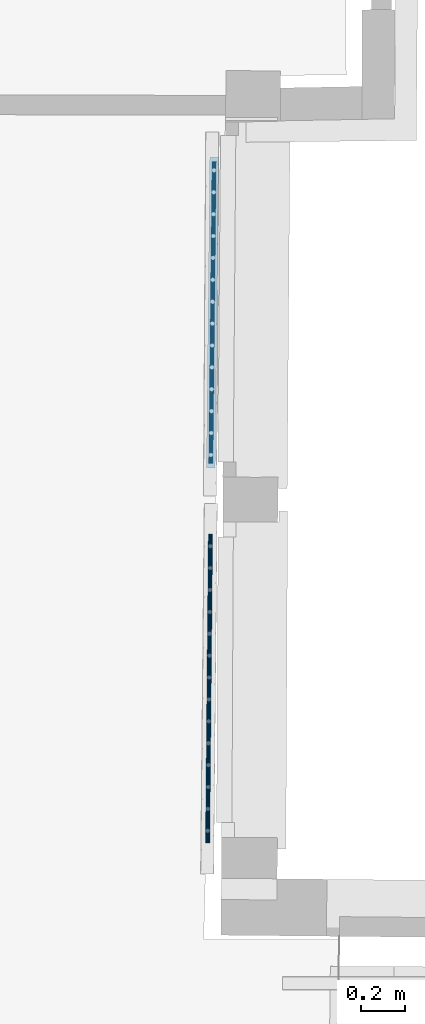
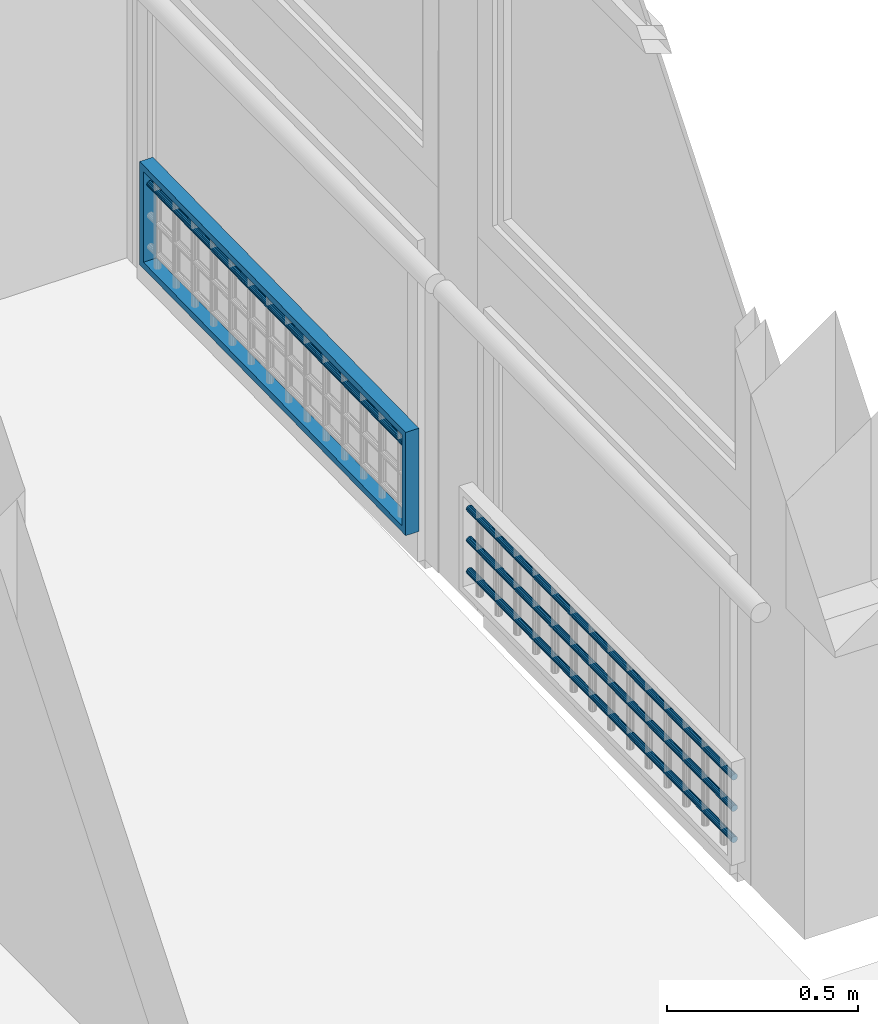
# One storey, part 27 of 97: 5 members, 2 elements without a shape of their own.
"""IFC2X3 building model written with IfcOpenShell, lengths in centimetres."""

from ifc_helpers import new_model, entity, si_unit, converted_unit, direction, frame, origin, origin_with_axes, place, context, subcontext, project, spatial, faceted_brep, material, type_object, element, aggregate, save


model = new_model("IFC2X3")

# Units and contexts
model_context = context("Model", 3, precision=0.0001, world=origin(), true_north=direction((0.225632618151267, 0.974212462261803, 0.0)))
body_context = subcontext(model_context, "Body", "Model", "MODEL_VIEW")
ifc_project = project(units=[si_unit("LENGTHUNIT", "METRE", prefix="CENTI"), si_unit("AREAUNIT", "SQUARE_METRE", prefix="CENTI"), si_unit("VOLUMEUNIT", "CUBIC_METRE", prefix="CENTI"), converted_unit("PLANEANGLEUNIT", "DEGREE", entity("IfcRatioMeasure", 0.0174532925), si_unit("PLANEANGLEUNIT", "RADIAN"), dimensions=[0, 0, 0, 0, 0, 0, 0])], contexts=[model_context])

# Site, building, storey
site_placement = place(None, origin_with_axes())
site = spatial("IfcSite", under=ifc_project, at=site_placement, Name="Default Site", CompositionType="ELEMENT")
building_placement = place(site_placement, origin_with_axes())
building = spatial("IfcBuilding", under=site, at=building_placement, Name="Default Building", CompositionType="ELEMENT")
storey_placement = place(building_placement, origin_with_axes())
storey = spatial("IfcBuildingStorey", under=building, at=storey_placement, Name="Rez-de-chaussée", CompositionType="ELEMENT", Elevation=0.0)

# Assembly, members
building_element_proxy_type = type_object("IfcBuildingElementProxyType", Name="Type Object", PredefinedType="NOTDEFINED")
assembly_1_placement = place(storey_placement, frame((1065.74726462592, -36.1039081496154, 11.9999999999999), z_axis=(0.0, 0.0, 1.0), x_axis=(-0.00922380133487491, -0.999957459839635, 0.0)))
assembly_1 = element("IfcElementAssembly", 1, at=assembly_1_placement, inside=storey, type_object=building_element_proxy_type, Name="Panneau 1702030", ObjectType="Precast panel", PredefinedType="USERDEFINED")
ifc_material = material(Name="Aluminium satiné")
member_1_placement = place(assembly_1_placement, frame((142.999994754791, 0.342020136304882, 25.5603075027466), z_axis=(1.0, -3.73485964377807e-15, -2.15799600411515e-15), x_axis=(-4.31252256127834e-15, -0.866024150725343, -0.500002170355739)))
member_1 = element("IfcMember", 2, at=member_1_placement, material=ifc_material, Name="4294967114", context=body_context, shape_type="Brep", body=[
    faceted_brep([(1.94289029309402e-14, 1.22124532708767e-13, 0.0), (-0.347296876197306, 1.77635683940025e-13, -1.49832807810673e-15), (-0.673647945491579, -0.118779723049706, -2.90649660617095e-15), (-0.939693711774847, -0.342018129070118, -4.05467374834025e-15), (-1.11334216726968, -0.64278433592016, -4.80435960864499e-15), (-1.17365112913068, -0.984805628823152, -5.06514129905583e-15), (-1.11334356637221, -1.32682410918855, -4.80555226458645e-15), (-0.939696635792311, -1.62759289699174, -4.05691648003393e-15), (-0.673653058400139, -1.85083187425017, -2.90952329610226e-15), (-0.34730123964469, -1.96961451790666, -1.50176363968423e-15), (-4.36344736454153e-06, -1.96961451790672, -3.43556157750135e-18), (0.326346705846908, -1.85083479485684, 1.40473296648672e-15), (0.592392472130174, -1.62759638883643, 2.55291010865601e-15), (0.766040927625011, -1.32683018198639, 3.30259596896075e-15), (0.826349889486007, -0.984808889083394, 3.5633776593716e-15), (0.76604232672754, -0.642790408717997, 3.30378862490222e-15), (0.592395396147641, -0.342021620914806, 2.5551528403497e-15), (0.326351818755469, -0.118782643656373, 1.40775965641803e-15), (0.326351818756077, -0.118782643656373, -140.999994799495), (0.592395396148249, -0.342021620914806, -140.999994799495), (0.766042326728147, -0.642790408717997, -140.999994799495), (0.826349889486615, -0.984808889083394, -140.999994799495), (0.766040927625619, -1.32683018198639, -140.999994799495), (0.592392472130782, -1.62759638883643, -140.999994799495), (0.326346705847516, -1.85083479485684, -140.999994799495), (-4.36344675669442e-06, -1.96961451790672, -140.999994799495), (-0.347301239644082, -1.96961451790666, -140.999994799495), (-0.673653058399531, -1.85083187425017, -140.999994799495), (-0.939696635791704, -1.62759289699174, -140.999994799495), (-1.1133435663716, -1.32682410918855, -140.999994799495), (-1.17365112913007, -0.984805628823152, -140.999994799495), (-1.11334216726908, -0.64278433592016, -140.999994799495), (-0.939693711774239, -0.342018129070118, -140.999994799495), (-0.673647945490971, -0.118779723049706, -140.999994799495), (-0.347296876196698, 1.77635683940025e-13, -140.999994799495), (6.27276008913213e-13, 1.22124532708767e-13, -140.999994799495), (0.326351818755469, -0.118782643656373, 0.0), (0.592395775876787, -0.34202116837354, 1.63928823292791e-21), (0.592395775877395, -0.34202116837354, -140.999994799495), (0.592395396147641, -0.342021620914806, 0.0), (0.766043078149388, -0.642789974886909, -2.22044572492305e-14), (0.766043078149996, -0.642789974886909, -140.999994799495), (0.76604232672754, -0.642790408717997, -2.22044604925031e-14), (0.826348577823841, -0.984809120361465, -2.22044661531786e-14), (0.826348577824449, -0.984809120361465, -140.999994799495), (0.766042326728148, -0.642790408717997, -140.999994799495), (0.826349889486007, -0.984808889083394, -2.22044604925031e-14), (0.766041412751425, -1.32683026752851, -2.22044583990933e-14), (0.766041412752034, -1.32683026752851, -140.999994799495), (0.766040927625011, -1.32683018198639, -2.22044604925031e-14), (0.592392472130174, -1.62759638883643, -2.22044604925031e-14), (0.326346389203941, -1.85083441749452, -2.22044618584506e-14), (0.326346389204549, -1.85083441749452, -140.999994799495), (0.326346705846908, -1.85083479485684, -2.22044604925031e-14), (-3.90791524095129e-06, -1.9696157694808, -2.22044585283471e-14), (-3.90791463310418e-06, -1.9696157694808, -140.999994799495), (-4.36344736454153e-06, -1.96961451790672, -2.22044604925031e-14), (-0.347301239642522, -1.96961365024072, -2.22044604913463e-14), (-0.347301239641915, -1.96961365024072, -140.999994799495), (-0.34730123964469, -1.96961451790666, -2.22044604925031e-14), (-0.673652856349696, -1.85083131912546, -2.2204459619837e-14), (-0.673652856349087, -1.85083131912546, -140.999994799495), (-0.673653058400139, -1.85083187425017, -2.22044604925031e-14), (-0.939697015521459, -1.627593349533, -2.22044621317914e-14), (-0.93969701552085, -1.627593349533, -140.999994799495), (-0.673653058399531, -1.85083187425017, -140.999994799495), (-0.939696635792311, -1.62759289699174, -2.22044604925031e-14), (-1.11334431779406, -1.32682454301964, -2.22044637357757e-14), (-1.11334431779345, -1.32682454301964, -140.999994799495), (-0.939696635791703, -1.62759289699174, -140.999994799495), (-1.11334356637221, -1.32682410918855, -2.22044604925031e-14), (-1.17364981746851, -0.984805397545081, -2.22044548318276e-14), (-1.1736498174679, -0.984805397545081, -140.999994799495), (-1.17365112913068, -0.984805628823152, -2.22044604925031e-14), (-1.11334265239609, -0.642784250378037, -2.22044625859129e-14), (-1.11334265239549, -0.642784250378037, -140.999994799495), (-1.11334216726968, -0.64278433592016, -2.22044604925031e-14), (-0.939693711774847, -0.342018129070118, -2.22044604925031e-14), (-0.673647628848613, -0.118780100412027, -2.22044591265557e-14), (-0.673647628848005, -0.118780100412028, -140.999994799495), (-0.673647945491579, -0.118779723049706, -2.22044604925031e-14), (-0.34729733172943, 1.25157425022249e-06, -2.22044624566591e-14), (-0.347297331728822, 1.25157425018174e-06, -140.999994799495), (-0.347296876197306, 1.77635683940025e-13, -2.22044604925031e-14), (-2.14829646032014e-12, -8.67665826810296e-07, -1.15685984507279e-24), (-1.54044935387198e-12, -8.6766582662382e-07, -140.999994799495), (-0.347296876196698, 1.7782216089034e-13, -140.999994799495), (0.326351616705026, -0.118783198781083, -8.72666147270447e-22), (0.326351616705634, -0.118783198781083, -140.999994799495), (6.27409254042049e-13, 1.22490617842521e-13, -140.999994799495)], [[[0, 1, 2, 3, 4, 5, 6, 7, 8, 9, 10, 11, 12, 13, 14, 15, 16, 17]], [[18, 19, 20, 21, 22, 23, 24, 25, 26, 27, 28, 29, 30, 31, 32, 33, 34, 35]], [[36, 37, 38, 18]], [[39, 40, 41, 19]], [[42, 43, 44, 45]], [[46, 47, 48, 21]], [[49, 50, 23, 22]], [[50, 51, 52, 23]], [[53, 54, 55, 24]], [[56, 57, 58, 25]], [[59, 60, 61, 26]], [[62, 63, 64, 65]], [[66, 67, 68, 69]], [[70, 71, 72, 29]], [[73, 74, 75, 30]], [[76, 77, 32, 31]], [[77, 78, 79, 32]], [[80, 81, 82, 33]], [[83, 84, 85, 86]], [[0, 87, 88, 89]]]),
])
member_2_placement = place(assembly_1_placement, frame((142.999994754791, 0.342020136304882, 15.5603080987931), z_axis=(1.0, -3.73485964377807e-15, -2.15712864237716e-15), x_axis=(-4.31252256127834e-15, -0.86602600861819, -0.499998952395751)))
member_2 = element("IfcMember", 3, at=member_2_placement, material=ifc_material, Name="4294967113", context=body_context, shape_type="Brep", body=[
    faceted_brep([(-5.55111512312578e-14, 6.38378239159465e-14, -2.22044604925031e-14), (-0.347296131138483, 1.19348975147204e-13, -2.37021828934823e-14), (-0.673647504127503, -0.11878222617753, -2.51095805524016e-14), (-0.93969169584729, -0.342020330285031, -2.62569021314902e-14), (-1.11333977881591, -0.642788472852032, -2.70057634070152e-14), (-1.17364672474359, -0.984808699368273, -2.72658384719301e-14), (-1.11333863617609, -1.3268282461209, -2.70057584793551e-14), (-0.939690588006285, -1.62759638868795, -2.62568973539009e-14), (-0.673645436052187, -1.85083308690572, -2.51095716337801e-14), (-0.347293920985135, -1.96961580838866, -2.37021733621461e-14), (2.9552097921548e-06, -1.9696145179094, -2.2204447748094e-14), (0.326354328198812, -1.85083229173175, -2.07970500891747e-14), (0.592398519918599, -1.62759418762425, -1.9649728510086e-14), (0.766046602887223, -1.32682604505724, -1.89008672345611e-14), (0.826353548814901, -0.984805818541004, -1.86407921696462e-14), (0.7660454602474, -0.642786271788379, -1.89008721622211e-14), (0.592396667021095, -0.342019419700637, -1.96497365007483e-14), (0.326352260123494, -0.118781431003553, -2.07970590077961e-14), (0.326352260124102, -0.118781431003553, -140.999994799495), (0.592396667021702, -0.342019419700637, -140.999994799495), (0.766045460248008, -0.642786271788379, -140.999994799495), (0.826353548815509, -0.984805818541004, -140.999994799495), (0.766046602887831, -1.32682604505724, -140.999994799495), (0.592398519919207, -1.62759418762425, -140.999994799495), (0.32635432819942, -1.85083229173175, -140.999994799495), (2.95521040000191e-06, -1.9696145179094, -140.999994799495), (-0.347293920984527, -1.96961580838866, -140.999994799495), (-0.673645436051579, -1.85083308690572, -140.999994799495), (-0.939690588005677, -1.62759638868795, -140.999994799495), (-1.11333863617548, -1.3268282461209, -140.999994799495), (-1.17364672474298, -0.984808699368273, -140.999994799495), (-1.11333977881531, -0.642788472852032, -140.999994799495), (-0.939691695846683, -0.342020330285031, -140.999994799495), (-0.673647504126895, -0.11878222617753, -140.999994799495), (-0.347296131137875, 1.19348975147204e-13, -140.999994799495), (5.52335954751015e-13, 6.38378239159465e-14, -140.999994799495), (0.326352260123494, -0.118781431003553, -2.22044604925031e-14), (0.59239704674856, -0.342018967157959, -2.22044588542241e-14), (0.592397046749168, -0.342018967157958, -140.999994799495), (0.592396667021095, -0.342019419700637, -2.22044604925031e-14), (0.766045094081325, -0.642786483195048, -2.22044620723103e-14), (0.766045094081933, -0.642786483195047, -140.999994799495), (0.592396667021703, -0.342019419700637, -140.999994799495), (0.7660454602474, -0.642786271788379, -2.22044604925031e-14), (0.826353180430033, -0.984805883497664, -2.22044620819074e-14), (0.826353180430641, -0.984805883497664, -140.999994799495), (0.766045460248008, -0.642786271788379, -140.999994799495), (0.826353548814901, -0.984805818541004, -2.22044604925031e-14), (0.766046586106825, -1.32682604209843, -2.22044605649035e-14), (0.766046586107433, -1.32682604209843, -140.999994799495), (0.826353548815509, -0.984805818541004, -140.999994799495), (0.766046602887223, -1.32682604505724, -2.22044604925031e-14), (0.5923985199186, -1.62759418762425, -2.22044604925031e-14), (0.592398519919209, -1.62759418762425, -140.999994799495), (0.592398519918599, -1.62759418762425, -2.22044604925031e-14), (0.326354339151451, -1.85083230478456, -2.22044604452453e-14), (0.326354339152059, -1.85083230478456, -140.999994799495), (0.326354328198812, -1.85083229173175, -2.22044604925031e-14), (3.08314895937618e-06, -1.96961486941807, -2.22044599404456e-14), (3.08314956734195e-06, -1.96961486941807, -140.999994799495), (2.9552097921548e-06, -1.9696145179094, -2.22044604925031e-14), (-0.347293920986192, -1.96961494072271, -2.22044604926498e-14), (-0.347293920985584, -1.96961494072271, -140.999994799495), (-0.347293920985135, -1.96961580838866, -2.22044604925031e-14), (-0.673645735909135, -1.85083391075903, -2.2204461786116e-14), (-0.673645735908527, -1.85083391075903, -140.999994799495), (-0.673645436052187, -1.85083308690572, -2.22044604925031e-14), (-0.93969002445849, -1.6275957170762, -2.2204458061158e-14), (-0.939690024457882, -1.6275957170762, -140.999994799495), (-0.673645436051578, -1.85083308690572, -140.999994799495), (-0.939690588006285, -1.62759638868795, -2.22044604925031e-14), (-1.11333938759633, -1.32682867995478, -2.22044637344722e-14), (-1.11333938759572, -1.32682867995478, -140.999994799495), (-1.11333863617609, -1.3268282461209, -2.22044604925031e-14), (-1.17364635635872, -0.984808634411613, -2.22044589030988e-14), (-1.17364635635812, -0.984808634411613, -140.999994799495), (-1.17364672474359, -0.984808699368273, -2.22044604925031e-14), (-1.11333976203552, -0.642788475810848, -2.22044604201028e-14), (-1.11333976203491, -0.642788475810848, -140.999994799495), (-1.11333977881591, -0.642788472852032, -2.22044604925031e-14), (-0.939691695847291, -0.342020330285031, -2.22044604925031e-14), (-0.939691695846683, -0.342020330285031, -140.999994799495), (-0.93969169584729, -0.342020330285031, -2.22044604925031e-14), (-0.673647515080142, -0.118782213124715, -2.2204460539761e-14), (-0.673647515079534, -0.118782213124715, -140.999994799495), (-0.673647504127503, -0.11878222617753, -2.22044604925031e-14), (-0.34729625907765, 3.51508794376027e-07, -2.22044610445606e-14), (-0.347296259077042, 3.5150879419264e-07, -140.999994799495), (-0.347296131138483, 1.19348975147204e-13, -2.22044604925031e-14), (-5.70260197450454e-13, 4.22812523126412e-07, -2.22044604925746e-14), (3.75869085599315e-14, 4.22812523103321e-07, -140.999994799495), (-0.347296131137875, 1.19325884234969e-13, -140.999994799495), (0.326352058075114, -0.118781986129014, -2.22044613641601e-14), (0.326352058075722, -0.118781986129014, -140.999994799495), (5.52387538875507e-13, 6.39795506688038e-14, -140.999994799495)], [[[0, 1, 2, 3, 4, 5, 6, 7, 8, 9, 10, 11, 12, 13, 14, 15, 16, 17]], [[18, 19, 20, 21, 22, 23, 24, 25, 26, 27, 28, 29, 30, 31, 32, 33, 34, 35]], [[36, 37, 38, 18]], [[39, 40, 41, 42]], [[43, 44, 45, 46]], [[47, 48, 49, 50]], [[51, 52, 53, 22]], [[54, 55, 56, 23]], [[57, 58, 59, 24]], [[60, 61, 62, 25]], [[63, 64, 65, 26]], [[66, 67, 68, 69]], [[70, 71, 72, 28]], [[73, 74, 75, 29]], [[76, 77, 78, 30]], [[79, 80, 81, 31]], [[82, 83, 84, 32]], [[85, 86, 87, 33]], [[88, 89, 90, 91]], [[0, 92, 93, 94]]]),
])
member_3_placement = place(assembly_1_placement, frame((142.999994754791, 0.342020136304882, 5.56030720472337), z_axis=(1.0, -3.73312492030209e-15, -2.15712864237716e-15), x_axis=(-4.31252256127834e-15, -0.866025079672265, -0.500000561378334)))
member_3 = element("IfcMember", 4, at=member_3_placement, material=ifc_material, Name="4294967112", context=body_context, shape_type="Brep", body=[
    faceted_brep([(-1.58206781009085e-13, 3.60822483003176e-14, 0.0), (-0.347296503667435, 8.95117313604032e-14, -1.49772400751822e-15), (-0.673648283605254, -0.118781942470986, -2.90522644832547e-15), (-0.939693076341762, -0.342019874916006, -4.05274424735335e-15), (-1.11334134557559, -0.642787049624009, -4.80186720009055e-15), (-1.17364892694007, -0.984807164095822, -5.0622416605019e-15), (-1.11334184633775, -1.32682746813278, -4.80246267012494e-15), (-0.939693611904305, -1.62759464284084, -4.05386161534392e-15), (-0.673649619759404, -1.85083312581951, -2.90673452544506e-15), (-0.347297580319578, -1.96961516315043, -1.49943701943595e-15), (-1.44918174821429e-06, -1.96961580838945, -1.71461901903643e-18), (0.326350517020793, -1.85083354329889, 1.40578862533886e-15), (0.592395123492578, -1.62759593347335, 2.55330562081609e-15), (0.766043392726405, -1.32682875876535, 3.30242857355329e-15), (0.826351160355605, -0.984808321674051, 3.56280383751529e-15), (0.76604389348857, -0.642788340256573, 3.30302404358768e-15), (0.592396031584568, -0.342020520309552, 2.55442459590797e-15), (0.326351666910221, -0.118782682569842, 1.40729589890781e-15), (0.326351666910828, -0.118782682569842, -140.999994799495), (0.592396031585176, -0.342020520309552, -140.999994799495), (0.766043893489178, -0.642788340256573, -140.999994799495), (0.826351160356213, -0.984808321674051, -140.999994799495), (0.766043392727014, -1.32682875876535, -140.999994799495), (0.592395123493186, -1.62759593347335, -140.999994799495), (0.326350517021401, -1.85083354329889, -140.999994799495), (-1.44918113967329e-06, -1.96961580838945, -140.999994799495), (-0.347297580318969, -1.96961516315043, -140.999994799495), (-0.673649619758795, -1.85083312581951, -140.999994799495), (-0.939693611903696, -1.62759464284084, -140.999994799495), (-1.11334184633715, -1.32682746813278, -140.999994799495), (-1.17364892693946, -0.984807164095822, -140.999994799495), (-1.11334134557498, -0.642787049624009, -140.999994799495), (-0.939693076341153, -0.342019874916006, -140.999994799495), (-0.673648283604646, -0.118781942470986, -140.999994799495), (-0.347296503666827, 8.95117313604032e-14, -140.999994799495), (4.49640324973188e-13, 3.60822483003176e-14, -140.999994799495), (0.326351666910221, -0.118782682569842, 0.0), (0.592395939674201, -0.342020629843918, -3.96489985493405e-22), (0.592395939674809, -0.342020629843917, -140.999994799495), (0.326351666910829, -0.118782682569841, -140.999994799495), (0.592396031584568, -0.342020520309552, 0.0), (0.766044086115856, -0.642788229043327, 8.30888020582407e-22), (0.766044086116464, -0.642788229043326, -140.999994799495), (0.76604389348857, -0.642788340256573, 0.0), (0.826351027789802, -0.984808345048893, -5.71778883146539e-22), (0.82635102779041, -0.984808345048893, -140.999994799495), (0.826351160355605, -0.984808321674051, 0.0), (0.766043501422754, -1.32682877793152, 4.68799201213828e-22), (0.766043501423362, -1.32682877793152, -140.999994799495), (0.766043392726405, -1.32682875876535, 0.0), (0.592395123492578, -1.62759593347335, 6.47894870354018e-31), (0.766043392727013, -1.32682875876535, -140.999994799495), (0.592395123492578, -1.62759593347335, 0.0), (0.326350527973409, -1.85083355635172, 4.72300758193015e-23), (0.326350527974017, -1.85083355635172, -140.999994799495), (0.326350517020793, -1.85083354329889, 0.0), (-1.48504120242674e-06, -1.9696157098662, -1.54595003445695e-22), (-1.4850405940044e-06, -1.9696157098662, -140.999994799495), (-1.44918174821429e-06, -1.96961580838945, 0.0), (-0.347297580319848, -1.96961558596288, -2.95270284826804e-25), (-0.34729758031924, -1.96961558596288, -140.999994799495), (-0.347297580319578, -1.96961516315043, 0.0), (-0.673649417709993, -1.85083257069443, 8.71834876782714e-22), (-0.673649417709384, -1.85083257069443, -140.999994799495), (-0.673649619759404, -1.85083312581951, 0.0), (-0.939693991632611, -1.62759509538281, -1.63810106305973e-21), (-0.939693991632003, -1.62759509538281, -140.999994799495), (-0.939693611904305, -1.62759464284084, 0.0), (-1.11334148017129, -1.32682725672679, 1.57944047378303e-21), (-1.11334148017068, -1.3268272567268, -140.999994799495), (-0.939693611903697, -1.62759464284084, -140.999994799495), (-1.11334184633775, -1.32682746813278, 0.0), (-1.17364903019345, -0.984807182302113, -4.4534942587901e-22), (-1.17364903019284, -0.984807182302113, -140.999994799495), (-1.17364892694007, -0.984807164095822, 0.0), (-1.1133413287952, -0.642787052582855, 7.23725694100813e-23), (-1.11334132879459, -0.642787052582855, -140.999994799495), (-1.11334134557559, -0.642787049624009, 0.0), (-0.939693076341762, -0.342019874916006, 9.71842305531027e-31), (-0.939693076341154, -0.342019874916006, -140.999994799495), (-1.11334134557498, -0.642787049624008, -140.999994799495), (-0.939693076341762, -0.342019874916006, 0.0), (-0.673648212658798, -0.118782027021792, 3.0593662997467e-22), (-0.67364821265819, -0.118782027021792, -140.999994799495), (-0.673648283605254, -0.118781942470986, 0.0), (-0.347296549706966, 1.26492924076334e-07, -1.98482702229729e-22), (-0.347296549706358, 1.26492924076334e-07, -140.999994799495), (-0.347296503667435, 8.95117313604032e-14, 0.0), (-3.00660474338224e-13, -2.22426710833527e-07, -1.55331300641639e-25), (3.07186631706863e-13, -2.22426710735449e-07, -140.999994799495), (-0.347296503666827, 8.96098091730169e-14, -140.999994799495), (0.326351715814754, -0.118782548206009, 2.11021045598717e-22), (0.326351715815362, -0.118782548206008, -140.999994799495), (4.49706073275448e-13, 3.62628899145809e-14, -140.999994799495)], [[[0, 1, 2, 3, 4, 5, 6, 7, 8, 9, 10, 11, 12, 13, 14, 15, 16, 17]], [[18, 19, 20, 21, 22, 23, 24, 25, 26, 27, 28, 29, 30, 31, 32, 33, 34, 35]], [[36, 37, 38, 39]], [[40, 41, 42, 19]], [[43, 44, 45, 20]], [[46, 47, 48, 21]], [[49, 50, 23, 51]], [[52, 53, 54, 23]], [[55, 56, 57, 24]], [[58, 59, 60, 25]], [[61, 62, 63, 26]], [[64, 65, 66, 27]], [[67, 68, 69, 70]], [[71, 72, 73, 29]], [[74, 75, 76, 30]], [[77, 78, 79, 80]], [[81, 82, 83, 79]], [[84, 85, 86, 33]], [[87, 88, 89, 90]], [[0, 91, 92, 93]]]),
])
aggregate(assembly_1, [member_1, member_2, member_3])

assembly_2_placement = place(storey_placement, frame((1067.41070761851, 134.057314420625, 12.0), z_axis=(0.0, 0.0, 1.0), x_axis=(-0.0108104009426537, -0.999941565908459, 0.0)))
assembly_2 = element("IfcElementAssembly", 5, at=assembly_2_placement, inside=storey, type_object=building_element_proxy_type, Name="Panneau 1702033", ObjectType="Precast panel", PredefinedType="USERDEFINED")
member_4_placement = place(assembly_2_placement, frame((1.99999995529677, 1.99999995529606, 31.0000002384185), z_axis=(1.0, 1.21430643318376e-16, -1.19636099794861e-17), x_axis=(-1.21430643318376e-16, 1.0, 0.0)))
member_4 = element("IfcMember", 6, at=member_4_placement, material=ifc_material, Name="4294967097", context=body_context, shape_type="Brep", body=[
    faceted_brep([(1.41935074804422e-12, 4.44089209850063e-14, -1.79023462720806e-13), (-3.99999991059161, 4.44089209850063e-14, -1.79578574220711e-13), (-3.99999991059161, -29.000000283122, -1.79578574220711e-13), (1.41935074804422e-12, -29.000000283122, -1.79023462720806e-13), (-3.99999991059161, 4.44089209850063e-14, -1.79717352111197e-13), (-3.99999991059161, 2.00000107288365, -1.99999995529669), (-3.99999991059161, -31.0000002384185, -1.99999995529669), (-3.99999991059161, -29.000000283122, -1.79370407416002e-13), (1.41969769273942e-12, 2.00000107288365, -1.99999995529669), (1.41969769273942e-12, -31.0000002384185, -1.99999995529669), (1.41942013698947e-12, 4.44089209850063e-14, -1.79023462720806e-13), (1.41942013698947e-12, -29.000000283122, -1.78676518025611e-13), (1.41935074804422e-12, -29.000000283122, -1.78676518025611e-13), (-3.99999991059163, -29.000000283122, 137.999997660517), (1.40026878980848e-12, -29.000000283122, 137.999997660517), (-3.99999991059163, -31.0000002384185, 139.999995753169), (1.39992184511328e-12, -31.0000002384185, 139.999995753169), (1.40026879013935e-12, -29.000000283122, 137.999997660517), (1.39999123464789e-12, -31.0000002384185, 139.999995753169), (-3.99999991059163, 4.44089209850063e-14, 137.999997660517), (1.40026878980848e-12, 4.44089209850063e-14, 137.999997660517), (-3.99999991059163, 2.00000107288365, 139.999995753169), (1.39992184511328e-12, 2.00000107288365, 139.999995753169), (1.40019940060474e-12, -29.000000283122, 137.999997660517), (1.40019940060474e-12, 4.44089209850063e-14, 137.999997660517), (-3.99999991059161, 4.27579428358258e-14, -1.79717352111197e-13), (1.41935074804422e-12, 4.27579428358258e-14, -1.79023462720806e-13), (1.41935074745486e-12, 4.44089209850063e-14, -1.79023462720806e-13), (1.41962830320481e-12, 2.00000107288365, -1.99999995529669)], [[[0, 1, 2, 3]], [[4, 5, 6, 7]], [[5, 8, 9, 6]], [[8, 10, 11, 9]], [[12, 7, 13, 14]], [[7, 6, 15, 13]], [[6, 9, 16, 15]], [[9, 11, 17, 18]], [[14, 13, 19, 20]], [[13, 15, 21, 19]], [[15, 16, 22, 21]], [[16, 23, 24, 22]], [[20, 19, 25, 26]], [[19, 21, 5, 4]], [[21, 22, 8, 5]], [[22, 24, 27, 28]]]),
])
member_5_placement = place(assembly_2_placement, frame((139.999997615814, 0.342020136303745, 25.5603075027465), z_axis=(1.0, -2.29764124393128e-14, -1.32567568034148e-14), x_axis=(-2.65273913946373e-14, -0.866024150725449, -0.500002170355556)))
member_5 = element("IfcMember", 7, at=member_5_placement, material=ifc_material, Name="4294967096", context=body_context, shape_type="Brep", body=[
    faceted_brep([(-7.13318293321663e-13, 2.16493489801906e-13, 2.22044604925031e-14), (-0.347296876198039, 1.97064586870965e-13, 1.29964000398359e-14), (-0.673647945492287, -0.118779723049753, 4.34358349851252e-15), (-0.939693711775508, -0.342018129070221, -2.71041817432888e-15), (-1.11334216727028, -0.642784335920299, -7.3147097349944e-15), (-1.1736511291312, -0.984805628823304, -8.91400887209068e-15), (-1.11334356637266, -1.32682410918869, -7.31534014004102e-15), (-0.939696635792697, -1.62759289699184, -2.71161075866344e-15), (-0.673653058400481, -1.85083187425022, 4.3419456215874e-15), (-0.347301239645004, -1.96961451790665, 1.29945759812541e-14), (-4.36344767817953e-06, -1.96961451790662, 2.22026364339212e-14), (0.326346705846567, -1.85083479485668, 3.08554529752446e-14), (0.592392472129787, -1.62759638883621, 3.7909454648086e-14), (0.76604092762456, -1.32683018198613, 4.25137462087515e-14), (0.826349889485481, -0.984808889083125, 4.41130453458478e-14), (0.766042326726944, -0.642790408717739, 4.25143766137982e-14), (0.59239539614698, -0.34202162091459, 3.79106472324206e-14), (0.326351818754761, -0.118782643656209, 3.08570908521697e-14), (0.326351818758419, -0.118782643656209, -137.999997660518), (0.592395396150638, -0.34202162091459, -137.999997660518), (0.766042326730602, -0.642790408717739, -137.999997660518), (0.826349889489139, -0.984808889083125, -137.999997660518), (0.766040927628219, -1.32683018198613, -137.999997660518), (0.592392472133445, -1.62759638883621, -137.999997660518), (0.326346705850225, -1.85083479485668, -137.999997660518), (-4.36344401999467e-06, -1.96961451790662, -137.999997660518), (-0.347301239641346, -1.96961451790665, -137.999997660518), (-0.673653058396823, -1.85083187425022, -137.999997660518), (-0.939696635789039, -1.62759289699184, -137.999997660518), (-1.113343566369, -1.32682410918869, -137.999997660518), (-1.17365112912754, -0.984805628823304, -137.999997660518), (-1.11334216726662, -0.642784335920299, -137.999997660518), (-0.93969371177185, -0.342018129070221, -137.999997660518), (-0.673647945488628, -0.118779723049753, -137.999997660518), (-0.347296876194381, 1.97064586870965e-13, -137.999997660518), (2.94486657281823e-12, 2.16493489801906e-13, -137.999997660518), (0.326351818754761, -0.118782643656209, 2.22044604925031e-14), (0.592395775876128, -0.342021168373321, 2.22044705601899e-14), (0.592395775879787, -0.342021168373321, -137.999997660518), (0.59239539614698, -0.34202162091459, 2.22044604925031e-14), (0.766043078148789, -0.642789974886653, 4.44089409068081e-14), (0.766043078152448, -0.642789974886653, -137.999997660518), (0.592395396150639, -0.34202162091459, -137.999997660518), (0.766042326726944, -0.642790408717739, 4.44089209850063e-14), (0.826348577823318, -0.984809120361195, 2.22044257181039e-14), (0.826348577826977, -0.984809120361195, -137.999997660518), (0.766042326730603, -0.642790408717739, -137.999997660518), (0.826349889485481, -0.984808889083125, 2.22044604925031e-14), (0.766041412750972, -1.32683026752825, 2.22044733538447e-14), (0.766041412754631, -1.32683026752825, -137.999997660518), (0.76604092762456, -1.32683018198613, 2.22044604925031e-14), (0.592392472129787, -1.62759638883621, 2.22044604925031e-14), (0.766040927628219, -1.32683018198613, -137.999997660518), (0.326346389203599, -1.85083441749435, 2.22044520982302e-14), (0.326346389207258, -1.85083441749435, -137.999997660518), (0.326346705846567, -1.85083479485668, 2.22044604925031e-14), (-3.90791555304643e-06, -1.9696157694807, 2.22044725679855e-14), (-3.90791189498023e-06, -1.9696157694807, -137.999997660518), (-4.36344767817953e-06, -1.96961451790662, 2.22044604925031e-14), (-0.347301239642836, -1.96961365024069, 1.00246239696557e-24), (-0.347301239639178, -1.96961365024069, -137.999997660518), (-0.347301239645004, -1.96961451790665, 0.0), (-0.673652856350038, -1.85083131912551, 5.3572673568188e-21), (-0.67365285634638, -1.85083131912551, -137.999997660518), (-0.347301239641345, -1.96961451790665, -137.999997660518), (-0.673653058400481, -1.85083187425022, 0.0), (-0.939697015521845, -1.62759334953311, -1.00676867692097e-20), (-0.939697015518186, -1.62759334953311, -137.999997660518), (-0.673653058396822, -1.85083187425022, -137.999997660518), (-0.939696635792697, -1.62759289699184, 0.0), (-1.11334431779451, -1.32682454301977, -2.2204480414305e-14), (-1.11334431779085, -1.32682454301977, -137.999997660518), (-0.939696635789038, -1.62759289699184, -137.999997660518), (-1.11334356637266, -1.32682410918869, -2.22044604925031e-14), (-1.17364981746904, -0.984805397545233, -2.22044257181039e-14), (-1.17364981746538, -0.984805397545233, -137.999997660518), (-1.1736511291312, -0.984805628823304, -2.22044604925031e-14), (-1.11334265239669, -0.642784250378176, -2.22044733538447e-14), (-1.11334265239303, -0.642784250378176, -137.999997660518), (-1.11334216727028, -0.642784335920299, -2.22044604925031e-14), (-0.939693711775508, -0.342018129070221, -2.22044604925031e-14), (-0.673647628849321, -0.118780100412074, -2.22044520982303e-14), (-0.673647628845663, -0.118780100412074, -137.999997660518), (-0.939693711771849, -0.342018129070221, -137.999997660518), (-0.673647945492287, -0.118779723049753, -2.22044604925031e-14), (-0.347297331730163, 1.2515742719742e-06, -1.20754823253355e-20), (-0.347297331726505, 1.2515742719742e-06, -137.999997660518), (-0.347296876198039, 1.97064586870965e-13, 0.0), (-2.88104347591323e-12, -8.67665733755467e-07, 2.22044604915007e-14), (7.77141390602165e-13, -8.67665733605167e-07, -137.999997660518), (-0.347296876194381, 1.97214886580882e-13, -137.999997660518), (0.326351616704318, -0.118783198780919, 2.22044551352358e-14), (0.326351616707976, -0.118783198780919, -137.999997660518), (2.9449621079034e-12, 2.16755968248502e-13, -137.999997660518)], [[[0, 1, 2, 3, 4, 5, 6, 7, 8, 9, 10, 11, 12, 13, 14, 15, 16, 17]], [[18, 19, 20, 21, 22, 23, 24, 25, 26, 27, 28, 29, 30, 31, 32, 33, 34, 35]], [[36, 37, 38, 18]], [[39, 40, 41, 42]], [[43, 44, 45, 46]], [[47, 48, 49, 21]], [[50, 51, 23, 52]], [[51, 53, 54, 23]], [[55, 56, 57, 24]], [[58, 59, 60, 25]], [[61, 62, 63, 64]], [[65, 66, 67, 68]], [[69, 70, 71, 72]], [[73, 74, 75, 29]], [[76, 77, 78, 30]], [[79, 80, 32, 31]], [[80, 81, 82, 83]], [[84, 85, 86, 33]], [[87, 88, 89, 90]], [[0, 91, 92, 93]]]),
])
aggregate(assembly_2, [member_4, member_5])

save(model, "model.ifc")
